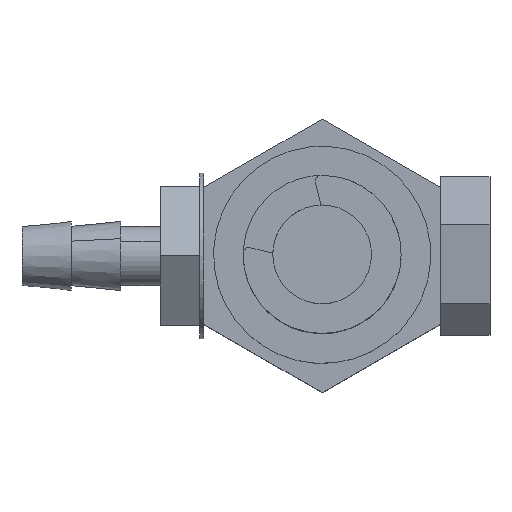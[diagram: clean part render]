
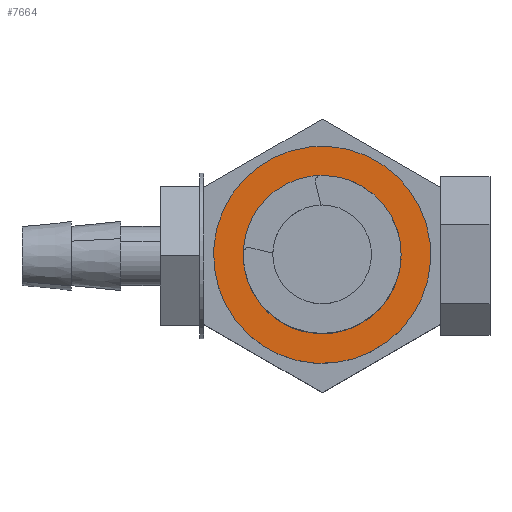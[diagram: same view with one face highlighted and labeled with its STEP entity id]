
A CAD part, top view. The second image highlights one B-rep face of the part: STEP entity #7664.
In plain terms, the highlighted planar face has unit normal (0, 0, 1).
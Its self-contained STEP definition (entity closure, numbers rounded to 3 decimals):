
#418 = DIRECTION ( 'NONE',  ( -0.115, 0.993, 0. ) ) ;
#511 = ORIENTED_EDGE ( 'NONE', *, *, #6659, .T. ) ;
#967 = CARTESIAN_POINT ( 'NONE',  ( 5.625, -5.209, 14.25 ) ) ;
#1111 = CARTESIAN_POINT ( 'NONE',  ( 5.165, -1.236, 14.25 ) ) ;
#1345 = DIRECTION ( 'NONE',  ( 0., 0., -1. ) ) ;
#1389 = CIRCLE ( 'NONE', #3103, 4. ) ;
#1539 = VERTEX_POINT ( 'NONE', #4648 ) ;
#1708 = EDGE_LOOP ( 'NONE', ( #7991, #7934 ) ) ;
#1924 = DIRECTION ( 'NONE',  ( 0.993, 0.115, 0. ) ) ;
#2210 = EDGE_CURVE ( 'NONE', #1539, #5517, #9697, .T. ) ;
#2357 = AXIS2_PLACEMENT_3D ( 'NONE', #9081, #4166, #9891 ) ;
#3103 = AXIS2_PLACEMENT_3D ( 'NONE', #10197, #5306, #418 ) ;
#3773 = VERTEX_POINT ( 'NONE', #7198 ) ;
#3901 = FACE_OUTER_BOUND ( 'NONE', #1708, .T. ) ;
#4166 = DIRECTION ( 'NONE',  ( 0., 0., -1. ) ) ;
#4282 = CIRCLE ( 'NONE', #5909, 4. ) ;
#4422 = DIRECTION ( 'NONE',  ( 0., 0., -1. ) ) ;
#4648 = CARTESIAN_POINT ( 'NONE',  ( -0.298, -1.868, 14.25 ) ) ;
#5306 = DIRECTION ( 'NONE',  ( 0., 0., -1. ) ) ;
#5391 = EDGE_CURVE ( 'NONE', #5517, #1539, #7217, .T. ) ;
#5517 = VERTEX_POINT ( 'NONE', #6726 ) ;
#5909 = AXIS2_PLACEMENT_3D ( 'NONE', #9320, #4422, #10142 ) ;
#6239 = CARTESIAN_POINT ( 'NONE',  ( 5.165, -1.236, 14.25 ) ) ;
#6659 = EDGE_CURVE ( 'NONE', #8349, #3773, #1389, .T. ) ;
#6726 = CARTESIAN_POINT ( 'NONE',  ( 10.629, -0.603, 14.25 ) ) ;
#6808 = DIRECTION ( 'NONE',  ( 0., 0., -1. ) ) ;
#7055 = DIRECTION ( 'NONE',  ( 0.993, 0.115, 0. ) ) ;
#7198 = CARTESIAN_POINT ( 'NONE',  ( 4.705, 2.738, 14.25 ) ) ;
#7217 = CIRCLE ( 'NONE', #7650, 5.5 ) ;
#7404 = PLANE ( 'NONE',  #2357 ) ;
#7650 = AXIS2_PLACEMENT_3D ( 'NONE', #6239, #1345, #7055 ) ;
#7664 = ADVANCED_FACE ( 'NONE', ( #8240, #3901 ), #7404, .F. ) ;
#7934 = ORIENTED_EDGE ( 'NONE', *, *, #2210, .F. ) ;
#7991 = ORIENTED_EDGE ( 'NONE', *, *, #5391, .F. ) ;
#8240 = FACE_BOUND ( 'NONE', #10407, .T. ) ;
#8349 = VERTEX_POINT ( 'NONE', #967 ) ;
#8424 = ORIENTED_EDGE ( 'NONE', *, *, #10073, .T. ) ;
#8915 = AXIS2_PLACEMENT_3D ( 'NONE', #1111, #6808, #1924 ) ;
#9081 = CARTESIAN_POINT ( 'NONE',  ( 11.334, -6.125, 14.25 ) ) ;
#9320 = CARTESIAN_POINT ( 'NONE',  ( 5.165, -1.236, 14.25 ) ) ;
#9697 = CIRCLE ( 'NONE', #8915, 5.5 ) ;
#9891 = DIRECTION ( 'NONE',  ( -0.993, -0.115, 0. ) ) ;
#10073 = EDGE_CURVE ( 'NONE', #3773, #8349, #4282, .T. ) ;
#10142 = DIRECTION ( 'NONE',  ( -0.115, 0.993, 0. ) ) ;
#10197 = CARTESIAN_POINT ( 'NONE',  ( 5.165, -1.236, 14.25 ) ) ;
#10407 = EDGE_LOOP ( 'NONE', ( #8424, #511 ) ) ;
